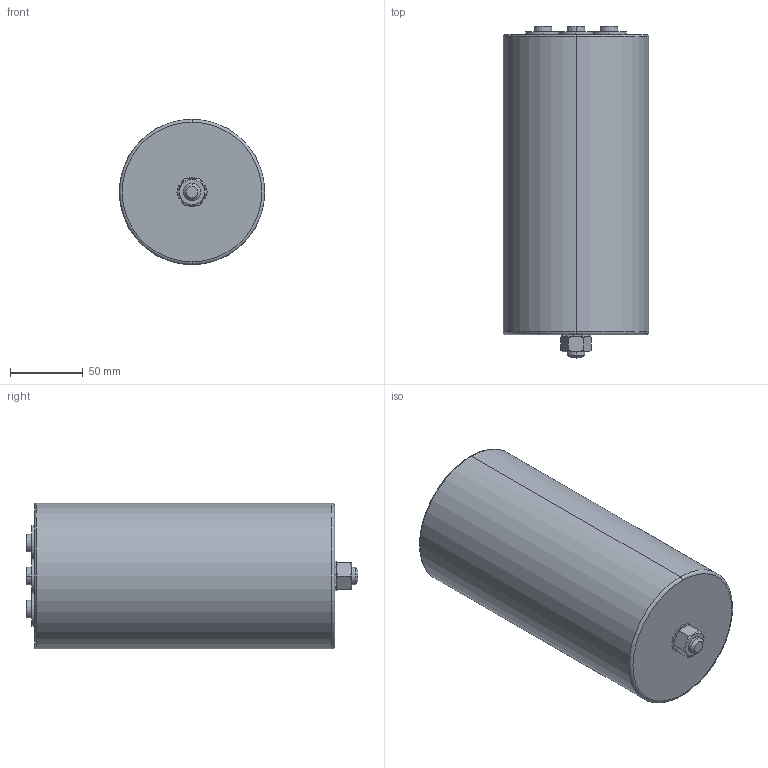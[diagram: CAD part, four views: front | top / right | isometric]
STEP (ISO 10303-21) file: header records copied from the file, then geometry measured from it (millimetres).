
FILE_DESCRIPTION (( 'STEP AP214' ), '1' );
FILE_NAME ('B25967 Series ¦µ100 Hc206 Ht212.STEP', '2025-08-20T02:11:12', ( '' ), ( '' ), 'SwSTEP 2.0', 'SolidWorks 2019', '' );
FILE_SCHEMA (( 'AUTOMOTIVE_DESIGN' ));
Length unit declared in the file: millimetre
Products named in the file (1): B25967 Series 朴100 Hc206 Ht212
Bounding box: 100 x 228 x 100 mm (x, y, z)
Volume: 1621637.1 mm3; surface area: 84915.4 mm2
Topology: 1 solids, 2 shells, 162 faces, 379 edges, 230 vertices
Faces by surface type: cylinder 63, plane 63, cone 30, torus 6
Entity records: 4743 total; most frequent: CARTESIAN_POINT 896, DIRECTION 885, ORIENTED_EDGE 742, EDGE_CURVE 371, AXIS2_PLACEMENT_3D 363, VERTEX_POINT 230, CIRCLE 200, EDGE_LOOP 181
